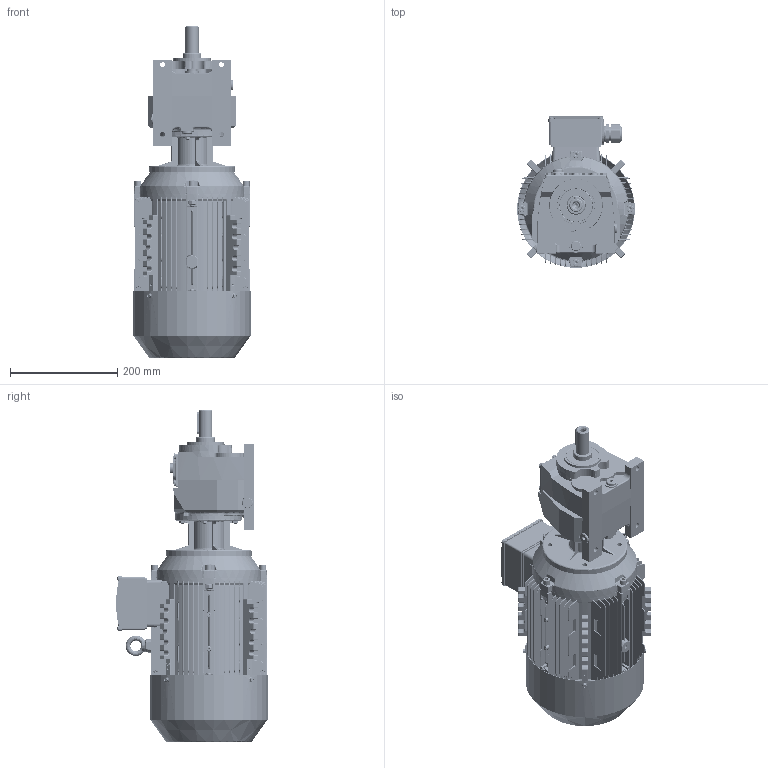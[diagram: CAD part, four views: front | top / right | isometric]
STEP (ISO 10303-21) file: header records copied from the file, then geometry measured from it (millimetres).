
FILE_DESCRIPTION (( 'STEP AP203' ), '1' );
FILE_NAME ('MV_173_0_MX-112.STEP', '2018-11-27T08:38:13', ( '' ), ( '' ), 'SwSTEP 2.0', 'SolidWorks 2012', '' );
FILE_SCHEMA (( 'CONFIG_CONTROL_DESIGN' ));
Products named in the file (26): MX3-112_B14; MV_173_0_MX-112; DMX-IE3 112 Flange; DMX-IE3 112  cable glands_3; eyebolts gb_GB_FASTENER_SCREWS_FRS M8-N_3; DMX-IE3 112terminal box cover_3; cross recessed pan head screws gb_GB_CROSS_SCREWS_TYPE1 M5X12-12  H type-N_3; hexagon flange head tapping screws gb_GB_SQUARE_AND_HEXAGON_TYPE137 ST4.8X9.5 C-N_3; DMX-IE3 112terminal box base_3; DMX-IE3 112   fan cover_3; plain parallel keys_GB_CONNECTING_PIECE_KEYS_CSK 8X50_3; hexagon nuts grade c gb_GB_FASTENER_NUT_SNC1 M8-N_3; circlips for shaft--type a large gb_GB_CONNECTING_PIECE_RING_RRA 28_3; hexagon socket head cap screws gb_GB_FASTENER_SCREWS_HSHCS M8X40-N_3; spring lock washers--normal type gb_GB_FASTENER_WASHER_SW 8_3; DMX-IE3 oil seal_3; deep groove ball bearings gb_Rolling bearings 6206 GB 276-94_3; DMX-IE3 112M4  oil seal_3; DMX-IE3 112 fan_3; DMX-IE3 112 shield_3; deep groove ball bearings gb_Rolling bearings 6306 GB 276-94_3; DMX-IE3 112 shaft_3; DMX-IE3 112M4 casing_3; M173_Varsayìlan; ML10A_Varsayìlan; 13100B14_Varsayìlan
Assembly tree (54 placements, depth 3):
  MV_173_0_MX-112
    M173_Varsayìlan
    13100B14_Varsayìlan
    ML10A_Varsayìlan
    MX3-112_B14
      DMX-IE3 112M4 casing_3
      DMX-IE3 112 shaft_3
      DMX-IE3 112 shield_3
      deep groove ball bearings gb_Rolling bearings 6306 GB 276-94_3
      deep groove ball bearings gb_Rolling bearings 6206 GB 276-94_3
      DMX-IE3 112M4  oil seal_3
      DMX-IE3 oil seal_3
      DMX-IE3 112 fan_3
      circlips for shaft--type a large gb_GB_CONNECTING_PIECE_RING_RRA 28_3
      spring lock washers--normal type gb_GB_FASTENER_WASHER_SW 8_3  x8
      hexagon nuts grade c gb_GB_FASTENER_NUT_SNC1 M8-N_3  x8
      hexagon socket head cap screws gb_GB_FASTENER_SCREWS_HSHCS M8X40-N_3  x8
      DMX-IE3 112   fan cover_3
      plain parallel keys_GB_CONNECTING_PIECE_KEYS_CSK 8X50_3
      DMX-IE3 112terminal box base_3
      DMX-IE3 112terminal box cover_3
      cross recessed pan head screws gb_GB_CROSS_SCREWS_TYPE1 M5X12-12  H type-N_3  x4
      eyebolts gb_GB_FASTENER_SCREWS_FRS M8-N_3
      hexagon flange head tapping screws gb_GB_SQUARE_AND_HEXAGON_TYPE137 ST4.8X9.5 C-N_3  x5
      DMX-IE3 112  cable glands_3  x2
      DMX-IE3 112 Flange
Bounding box: 219.16 x 282.18 x 620.25 mm (x, y, z)
Volume: 4376325.6 mm3; surface area: 1540718.1 mm2
Topology: 53 solids, 59 shells, 7197 faces, 18629 edges, 11397 vertices
Faces by surface type: plane 2541, cylinder 1911, bspline 1745, cone 779, torus 111, sphere 110
Entity records: 279818 total; most frequent: CARTESIAN_POINT 128004, ORIENTED_EDGE 33796, DIRECTION 27449, EDGE_CURVE 16901, VERTEX_POINT 10444, AXIS2_PLACEMENT_3D 9996, VECTOR 7457, LINE 7457
